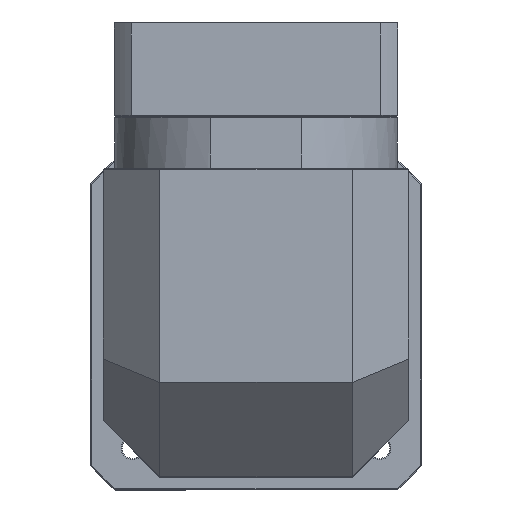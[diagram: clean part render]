
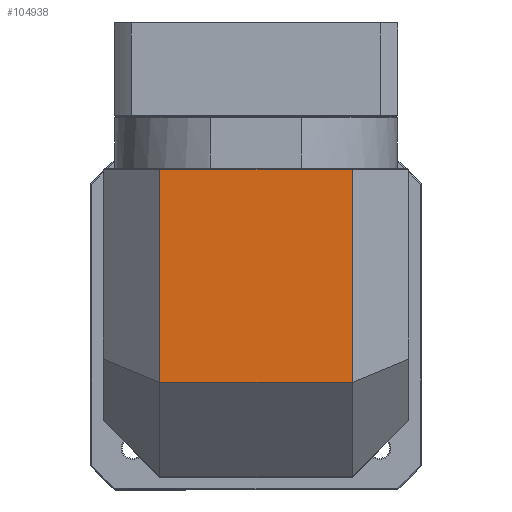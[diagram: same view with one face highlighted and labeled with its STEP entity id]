
A CAD part, top view. The second image highlights one B-rep face of the part: STEP entity #104938.
In plain terms, the highlighted planar face has unit normal (0, 0, 1).
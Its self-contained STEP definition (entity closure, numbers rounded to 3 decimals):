
#1100 = DIRECTION ( 'NONE',  ( -1., 0., 0. ) ) ;
#7170 = VERTEX_POINT ( 'NONE', #81732 ) ;
#9447 = ORIENTED_EDGE ( 'NONE', *, *, #14247, .T. ) ;
#12136 = ORIENTED_EDGE ( 'NONE', *, *, #45772, .T. ) ;
#14247 = EDGE_CURVE ( 'NONE', #29150, #30407, #130662, .T. ) ;
#17943 = DIRECTION ( 'NONE',  ( 0., 1., 0. ) ) ;
#18329 = LINE ( 'NONE', #90024, #92219 ) ;
#28422 = AXIS2_PLACEMENT_3D ( 'NONE', #72684, #92505, #39732 ) ;
#29150 = VERTEX_POINT ( 'NONE', #35674 ) ;
#29349 = CARTESIAN_POINT ( 'NONE',  ( -107.694, 92.638, 425.95 ) ) ;
#30407 = VERTEX_POINT ( 'NONE', #29349 ) ;
#35340 = VECTOR ( 'NONE', #113600, 1000. ) ;
#35674 = CARTESIAN_POINT ( 'NONE',  ( -5.694, 92.638, 425.95 ) ) ;
#39732 = DIRECTION ( 'NONE',  ( 1., 0., 0. ) ) ;
#42038 = CARTESIAN_POINT ( 'NONE',  ( -137.694, 92.638, 425.95 ) ) ;
#44463 = DIRECTION ( 'NONE',  ( 0., 1., 0. ) ) ;
#45772 = EDGE_CURVE ( 'NONE', #7170, #29150, #105839, .T. ) ;
#53216 = CARTESIAN_POINT ( 'NONE',  ( -5.694, 93.138, 425.95 ) ) ;
#61712 = PLANE ( 'NONE',  #28422 ) ;
#63161 = LINE ( 'NONE', #99817, #35340 ) ;
#67255 = ORIENTED_EDGE ( 'NONE', *, *, #82709, .F. ) ;
#72684 = CARTESIAN_POINT ( 'NONE',  ( -137.694, 93.138, 425.95 ) ) ;
#81732 = CARTESIAN_POINT ( 'NONE',  ( -5.694, -20.362, 425.95 ) ) ;
#82709 = EDGE_CURVE ( 'NONE', #94228, #30407, #18329, .T. ) ;
#89668 = ORIENTED_EDGE ( 'NONE', *, *, #131994, .T. ) ;
#90024 = CARTESIAN_POINT ( 'NONE',  ( -107.694, 11.388, 425.95 ) ) ;
#92219 = VECTOR ( 'NONE', #17943, 1000. ) ;
#92505 = DIRECTION ( 'NONE',  ( 0., 0., -1. ) ) ;
#94228 = VERTEX_POINT ( 'NONE', #116772 ) ;
#96123 = VECTOR ( 'NONE', #1100, 1000. ) ;
#99432 = EDGE_LOOP ( 'NONE', ( #12136, #9447, #67255, #89668 ) ) ;
#99817 = CARTESIAN_POINT ( 'NONE',  ( -137.694, -20.362, 425.95 ) ) ;
#104938 = ADVANCED_FACE ( 'NONE', ( #135992 ), #61712, .F. ) ;
#105839 = LINE ( 'NONE', #53216, #135268 ) ;
#113600 = DIRECTION ( 'NONE',  ( 1., 0., 0. ) ) ;
#116772 = CARTESIAN_POINT ( 'NONE',  ( -107.694, -20.362, 425.95 ) ) ;
#130662 = LINE ( 'NONE', #42038, #96123 ) ;
#131994 = EDGE_CURVE ( 'NONE', #94228, #7170, #63161, .T. ) ;
#135268 = VECTOR ( 'NONE', #44463, 1000. ) ;
#135992 = FACE_OUTER_BOUND ( 'NONE', #99432, .T. ) ;
